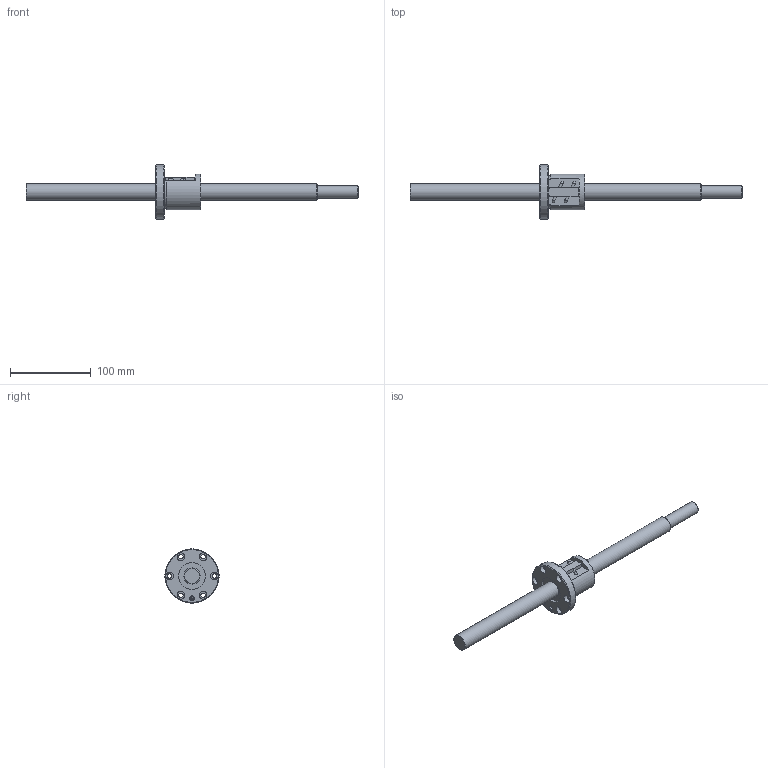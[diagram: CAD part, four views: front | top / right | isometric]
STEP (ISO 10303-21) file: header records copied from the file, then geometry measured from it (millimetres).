
FILE_DESCRIPTION(/* description */ ('STEP AP203'),/* implementation_level */ '2;1');
FILE_NAME(/* name */ 'BNF2005-5RRG1+410LC5A(00)',/* time_stamp */ '2024-07-15T07:41:28+02:00',/* author */ ('License CC BY-ND 4.0'),/* organization */ ('CADENAS'),/* preprocessor_version */ 'ST-DEVELOPER v19.3',/* originating_system */ 'PARTsolutions',/* authorisation */ ' ');
FILE_SCHEMA (('CONFIG_CONTROL_DESIGN'));
Length unit declared in the file: millimetre
Products named in the file (3): BNF2005-5RRG1+410LC5A(00); BNF2005-5RRG1+410LC5A(00)_shaft; BNF 2005-5RR_nut
Assembly tree (2 placements, depth 2):
  BNF2005-5RRG1+410LC5A(00)
    BNF2005-5RRG1+410LC5A(00)_shaft
    BNF 2005-5RR_nut
Bounding box: 410 x 67 x 67 mm (x, y, z)
Volume: 198392.5 mm3; surface area: 46649.7 mm2
Topology: 2 solids, 2 shells, 69 faces, 159 edges, 104 vertices
Faces by surface type: cylinder 32, plane 24, cone 9, torus 4
Full cylindrical faces by diameter (mm): 2.75 x2, 2.931 x4, 4.917 x1, 5.5 x6, 9.5 x6, 15.3 x1, 20 x2, 33 x2, 44 x1, 67 x1
Entity records: 1811 total; most frequent: DIRECTION 316, CARTESIAN_POINT 314, ORIENTED_EDGE 212, AXIS2_PLACEMENT_3D 146, EDGE_LOOP 142, FACE_BOUND 142, EDGE_CURVE 106, VERTEX_POINT 90
